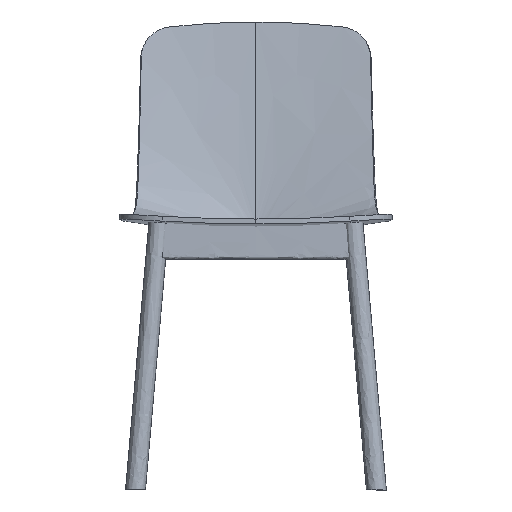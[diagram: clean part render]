
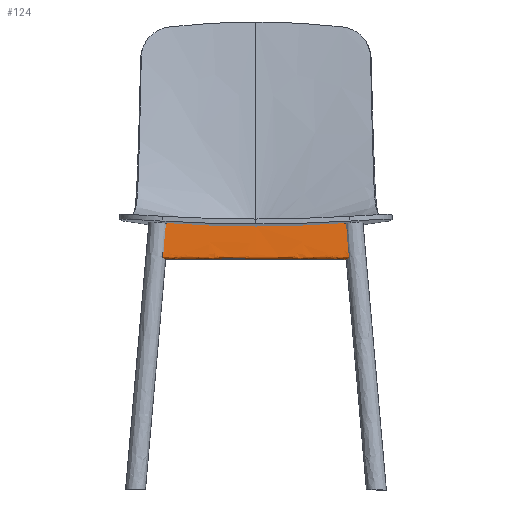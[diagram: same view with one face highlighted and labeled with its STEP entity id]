
A CAD part, front view. The second image highlights one B-rep face of the part: STEP entity #124.
In plain terms, the highlighted free-form (B-spline) face has degree [2, 1] with [7, 2] control points.
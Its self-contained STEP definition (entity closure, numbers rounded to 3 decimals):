
#124=ADVANCED_FACE('',(#178),#847,.T.);
#178=FACE_OUTER_BOUND('',#232,.T.);
#232=EDGE_LOOP('',(#290,#291,#292,#293,#294));
#290=ORIENTED_EDGE('',*,*,#520,.T.);
#291=ORIENTED_EDGE('',*,*,#530,.T.);
#292=ORIENTED_EDGE('',*,*,#522,.F.);
#293=ORIENTED_EDGE('',*,*,#523,.F.);
#294=ORIENTED_EDGE('',*,*,#527,.F.);
#520=EDGE_CURVE('',#767,#768,#665,.T.);
#522=EDGE_CURVE('',#771,#772,#667,.T.);
#523=EDGE_CURVE('',#770,#771,#668,.T.);
#527=EDGE_CURVE('',#767,#770,#643,.T.);
#530=EDGE_CURVE('',#768,#772,#646,.T.);
#643=(
BOUNDED_CURVE()
B_SPLINE_CURVE(2,(#1035,#1036,#1037,#1038,#1039,#1040,#1041,#1042,#1043),
 .UNSPECIFIED.,.F.,.F.)
B_SPLINE_CURVE_WITH_KNOTS((3,2,2,2,3),(-17.028,-5.,2.854,
51.026,58.016),.UNSPECIFIED.)
CURVE()
GEOMETRIC_REPRESENTATION_ITEM()
RATIONAL_B_SPLINE_CURVE((1.,1.,1.,0.707,1.,1.,1.,1.,1.))
REPRESENTATION_ITEM('')
);
#646=(
BOUNDED_CURVE()
B_SPLINE_CURVE(2,(#1058,#1059,#1060,#1061,#1062,#1063,#1064,#1065,#1066),
 .UNSPECIFIED.,.F.,.F.)
B_SPLINE_CURVE_WITH_KNOTS((3,2,2,2,3),(-17.028,-5.,2.854,
51.06,58.05),.UNSPECIFIED.)
CURVE()
GEOMETRIC_REPRESENTATION_ITEM()
RATIONAL_B_SPLINE_CURVE((1.,1.,1.,0.707,1.,1.,1.,1.,1.))
REPRESENTATION_ITEM('')
);
#665=B_SPLINE_CURVE_WITH_KNOTS('',1,(#984,#985),.UNSPECIFIED.,.F.,.F.,(2,
2),(0.,311.905),.UNSPECIFIED.);
#667=B_SPLINE_CURVE_WITH_KNOTS('',3,(#990,#991,#992,#993,#994,#995,#996,
#997),.UNSPECIFIED.,.F.,.F.,(4,2,2,4),(0.,39.105,78.192,
156.375),.UNSPECIFIED.);
#668=B_SPLINE_CURVE_WITH_KNOTS('',3,(#998,#999,#1000,#1001,#1002,#1003,
#1004,#1005,#1006,#1007),.UNSPECIFIED.,.F.,.F.,(4,2,2,2,4),(0.,66.043,
99.046,132.051,155.874),.UNSPECIFIED.);
#767=VERTEX_POINT('',#976);
#768=VERTEX_POINT('',#977);
#770=VERTEX_POINT('',#979);
#771=VERTEX_POINT('',#980);
#772=VERTEX_POINT('',#981);
#847=(
BOUNDED_SURFACE()
B_SPLINE_SURFACE(2,1,((#952,#953),(#954,#955),(#956,#957),(#958,#959),(#960,
#961),(#962,#963),(#964,#965)),.UNSPECIFIED.,.F.,.F.,.F.)
B_SPLINE_SURFACE_WITH_KNOTS((3,2,2,3),(2,2),(-70.035,-2.854,
5.,17.028),(0.,311.905),.UNSPECIFIED.)
GEOMETRIC_REPRESENTATION_ITEM()
RATIONAL_B_SPLINE_SURFACE(((1.,1.),(1.,1.),(1.,1.),(0.707,0.707),
(1.,1.),(1.,1.),(1.,1.)))
REPRESENTATION_ITEM('')
SURFACE()
);
#952=CARTESIAN_POINT('',(-164.367,-193.98,458.03));
#953=CARTESIAN_POINT('',(147.538,-193.98,458.03));
#954=CARTESIAN_POINT('',(-164.367,-196.927,423.894));
#955=CARTESIAN_POINT('',(147.538,-196.927,423.894));
#956=CARTESIAN_POINT('',(-164.367,-199.873,389.759));
#957=CARTESIAN_POINT('',(147.538,-199.873,389.759));
#958=CARTESIAN_POINT('',(-164.367,-200.255,385.336));
#959=CARTESIAN_POINT('',(147.538,-200.255,385.336));
#960=CARTESIAN_POINT('',(-164.367,-195.27,385.018));
#961=CARTESIAN_POINT('',(147.538,-195.27,385.018));
#962=CARTESIAN_POINT('',(-164.367,-189.274,384.635));
#963=CARTESIAN_POINT('',(147.538,-189.274,384.635));
#964=CARTESIAN_POINT('',(-164.367,-183.278,384.253));
#965=CARTESIAN_POINT('',(147.538,-183.278,384.253));
#976=CARTESIAN_POINT('',(-164.367,-183.278,384.253));
#977=CARTESIAN_POINT('',(147.538,-183.278,384.253));
#979=CARTESIAN_POINT('',(-164.367,-195.034,445.816));
#980=CARTESIAN_POINT('',(-8.664,-195.511,440.291));
#981=CARTESIAN_POINT('',(147.538,-195.031,445.851));
#984=CARTESIAN_POINT('',(-164.367,-183.278,384.253));
#985=CARTESIAN_POINT('',(147.538,-183.278,384.253));
#990=CARTESIAN_POINT('',(-8.664,-195.511,440.291));
#991=CARTESIAN_POINT('',(4.383,-195.511,440.291));
#992=CARTESIAN_POINT('',(17.381,-195.501,440.408));
#993=CARTESIAN_POINT('',(43.464,-195.46,440.881));
#994=CARTESIAN_POINT('',(56.468,-195.43,441.235));
#995=CARTESIAN_POINT('',(95.563,-195.308,442.647));
#996=CARTESIAN_POINT('',(121.532,-195.187,444.047));
#997=CARTESIAN_POINT('',(147.538,-195.031,445.851));
#998=CARTESIAN_POINT('',(-164.367,-195.034,445.816));
#999=CARTESIAN_POINT('',(-142.415,-195.165,444.298));
#1000=CARTESIAN_POINT('',(-120.473,-195.271,443.067));
#1001=CARTESIAN_POINT('',(-87.487,-195.389,441.703));
#1002=CARTESIAN_POINT('',(-76.49,-195.421,441.329));
#1003=CARTESIAN_POINT('',(-54.494,-195.471,440.749));
#1004=CARTESIAN_POINT('',(-43.491,-195.489,440.543));
#1005=CARTESIAN_POINT('',(-24.549,-195.507,440.335));
#1006=CARTESIAN_POINT('',(-16.606,-195.511,440.291));
#1007=CARTESIAN_POINT('',(-8.664,-195.511,440.291));
#1035=CARTESIAN_POINT('',(-164.367,-183.278,384.253));
#1036=CARTESIAN_POINT('',(-164.367,-189.274,384.635));
#1037=CARTESIAN_POINT('',(-164.367,-195.27,385.018));
#1038=CARTESIAN_POINT('',(-164.367,-200.255,385.336));
#1039=CARTESIAN_POINT('',(-164.367,-199.873,389.759));
#1040=CARTESIAN_POINT('',(-164.367,-197.76,414.236));
#1041=CARTESIAN_POINT('',(-164.367,-195.647,438.713));
#1042=CARTESIAN_POINT('',(-164.367,-195.341,442.265));
#1043=CARTESIAN_POINT('',(-164.367,-195.034,445.816));
#1058=CARTESIAN_POINT('',(147.538,-183.278,384.253));
#1059=CARTESIAN_POINT('',(147.538,-189.274,384.635));
#1060=CARTESIAN_POINT('',(147.538,-195.27,385.018));
#1061=CARTESIAN_POINT('',(147.538,-200.255,385.336));
#1062=CARTESIAN_POINT('',(147.538,-199.873,389.759));
#1063=CARTESIAN_POINT('',(147.538,-197.759,414.253));
#1064=CARTESIAN_POINT('',(147.538,-195.644,438.748));
#1065=CARTESIAN_POINT('',(147.538,-195.338,442.299));
#1066=CARTESIAN_POINT('',(147.538,-195.031,445.851));
